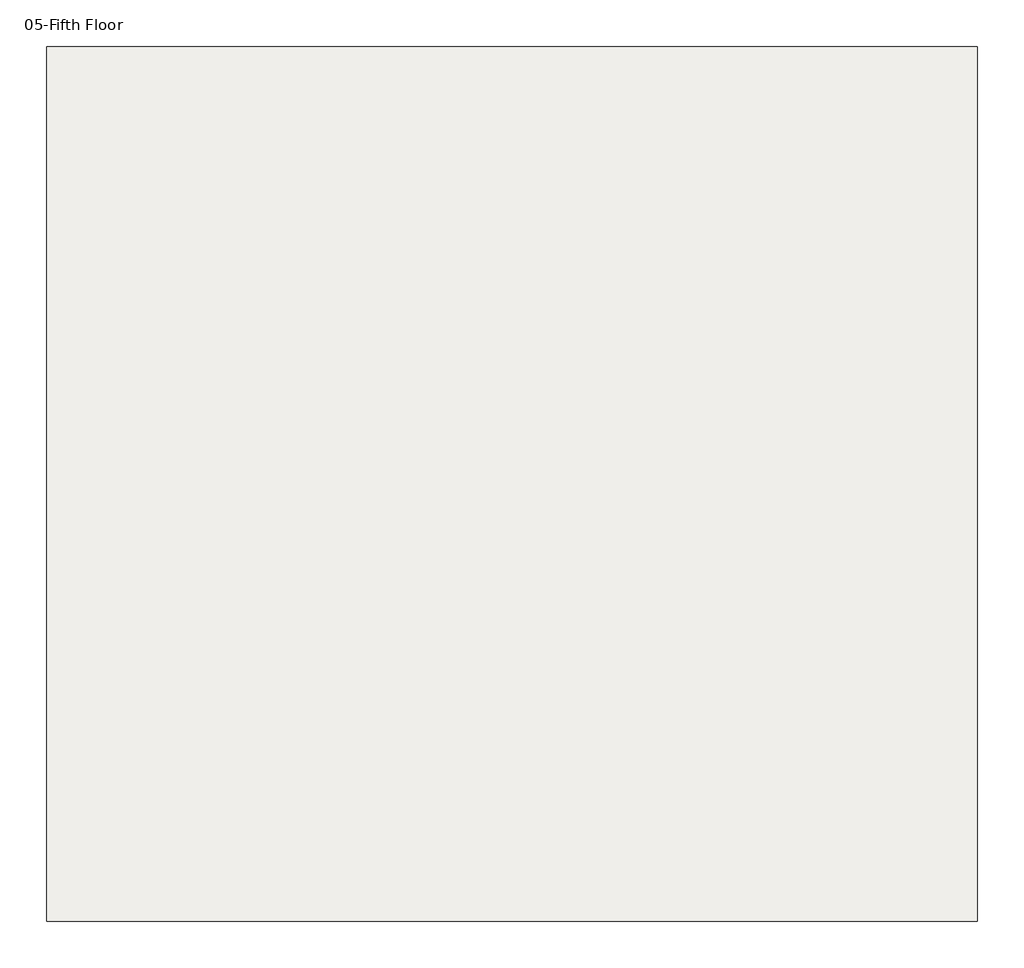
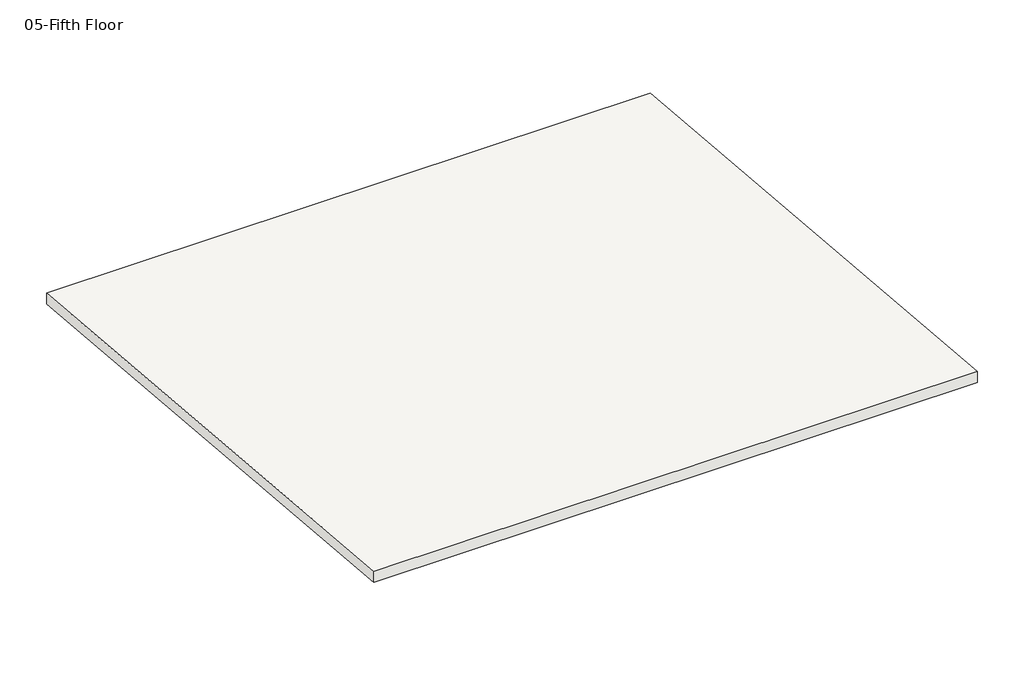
# One storey: 1 slab.
"""IFC4 building model written with IfcOpenShell, lengths in millimetres."""

import ifcopenshell
import ifcopenshell.guid

model = None  # the IFC model being written
_history = None  # IfcOwnerHistory: only IFC2X3 demands one
_inside = {}  # id of a spatial element -> (the spatial element, [elements in it])
_under = {}  # id of a project, library or spatial element -> (it, [spatial elements below it])
_declared = {}  # id of a project -> (the project, [libraries it declares])
_typed = {}  # id of a type object -> (the type object, [elements of that type])
_made_of = {}  # id of a material, layer set ... -> (it, [elements and type objects made of it])


def new_model(schema):
    """Start an empty IFC model of exactly this schema.

    Asked for "IFC4X3", IfcOpenShell would pick the latest addendum, in which some entities
    have other attributes; the version numbers below select the first issue.
    IFC2X3 requires an IfcOwnerHistory on every rooted entity: one is made here for all.
    """
    global model, _history
    if schema == "IFC4X3":
        model = ifcopenshell.file(schema_version=(4, 3, 0, 0))
    else:
        model = ifcopenshell.file(schema=schema)
    _inside.clear()
    _under.clear()
    _declared.clear()
    _typed.clear()
    _made_of.clear()
    _history = None
    if model.schema == "IFC2X3":
        org = make("IfcOrganization", Name="unknown")
        user = make(
            "IfcPersonAndOrganization",
            ThePerson=make("IfcPerson", FamilyName="unknown"),
            TheOrganization=org,
        )
        app = make(
            "IfcApplication",
            ApplicationDeveloper=org,
            Version="unknown",
            ApplicationFullName="unknown",
            ApplicationIdentifier="unknown",
        )
        _history = make(
            "IfcOwnerHistory",
            OwningUser=user,
            OwningApplication=app,
            ChangeAction="ADDED",
            CreationDate=0,
        )
    return model


def make(cls, **values):
    """One entity of the class cls with the attributes given. An attribute that is None is left unset."""
    return model.create_entity(
        cls, **{name: value for name, value in values.items() if value is not None}
    )


def rooted(cls, **values):
    """An entity with a GlobalId (a new one), such as an element, a storey or a relation."""
    return make(cls, GlobalId=ifcopenshell.guid.new(), OwnerHistory=_history, **values)


def si_unit(unit_type, name, prefix=None):
    """IfcSIUnit, for example si_unit("LENGTHUNIT", "METRE", prefix="MILLI")."""
    return make("IfcSIUnit", UnitType=unit_type, Prefix=prefix, Name=name)


def assignment(units):
    """IfcUnitAssignment: the units of a project."""
    return None if units is None else make("IfcUnitAssignment", Units=units)


def point(xyz):
    """IfcCartesianPoint."""
    return None if xyz is None else make("IfcCartesianPoint", Coordinates=xyz)


def direction(xyz):
    """IfcDirection."""
    return None if xyz is None else make("IfcDirection", DirectionRatios=xyz)


def frame(location, z_axis=None, x_axis=None):
    """IfcAxis2Placement3D, a coordinate frame: its origin and axes. An axis left out is left unset."""
    return make(
        "IfcAxis2Placement3D",
        Location=point(location),
        Axis=direction(z_axis),
        RefDirection=direction(x_axis),
    )


def origin():
    """The frame at (0, 0, 0) with its axes left unset."""
    return frame((0.0, 0.0, 0.0))


def place(relative_to, where):
    """IfcLocalPlacement: puts the frame where relative to a parent placement (None: the world)."""
    return make(
        "IfcLocalPlacement", PlacementRelTo=relative_to, RelativePlacement=where
    )


def context(
    kind, dimensions, precision=None, world=None, true_north=None, identifier=None
):
    """IfcGeometricRepresentationContext, for example the 3D "Model" context."""
    return make(
        "IfcGeometricRepresentationContext",
        ContextIdentifier=identifier,
        ContextType=kind,
        CoordinateSpaceDimension=dimensions,
        Precision=precision,
        WorldCoordinateSystem=world,
        TrueNorth=true_north,
    )


def project(units=None, contexts=None):
    """IfcProject with its units and contexts."""
    return rooted(
        "IfcProject",
        Name="project",
        RepresentationContexts=contexts,
        UnitsInContext=assignment(units),
    )


def spatial(cls, under=None, at=None, **own):
    """A site, building, storey or space (cls), placed at a placement, below another one or the project."""
    s = rooted(cls, ObjectPlacement=at, **own)
    if under is not None:
        _under.setdefault(under.id(), (under, []))[1].append(s)
    return s


def polyline(points):
    """IfcPolyline through the points."""
    return make("IfcPolyline", Points=[point(p) for p in points])


def outline(outer, holes=None, kind="AREA"):
    """IfcArbitraryClosedProfileDef: a profile drawn as a closed curve; with holes, ...WithVoids."""
    if holes is None:
        return make("IfcArbitraryClosedProfileDef", ProfileType=kind, OuterCurve=outer)
    return make(
        "IfcArbitraryProfileDefWithVoids",
        ProfileType=kind,
        OuterCurve=outer,
        InnerCurves=holes,
    )


def extrude(swept, where, along, depth):
    """IfcExtrudedAreaSolid: the profile swept, set in the frame where, extruded along a direction by depth."""
    return make(
        "IfcExtrudedAreaSolid",
        SweptArea=swept,
        Position=where,
        ExtrudedDirection=direction(along),
        Depth=depth,
    )


def shape(context_of_items, identifier, shape_type, items):
    """IfcShapeRepresentation: the items that make up one representation, for example the "Body"."""
    return make(
        "IfcShapeRepresentation",
        ContextOfItems=context_of_items,
        RepresentationIdentifier=identifier,
        RepresentationType=shape_type,
        Items=items,
    )


def made_of(thing, what):
    """Note that an element or type object is made of a material, layer set ...; save() writes the relation."""
    if what is not None:
        _made_of.setdefault(what.id(), (what, []))[1].append(thing)
    return thing


def element(
    cls,
    number,
    at=None,
    inside=None,
    cuts=None,
    type_object=None,
    material=None,
    context=None,
    identifier="Body",
    shape_type=None,
    held_by="IfcProductDefinitionShape",
    body=None,
    shapes=None,
    **own,
):
    """One element of the class cls, such as IfcWall. Its Tag is "e" and its number.

    at: its placement. inside: the storey or other place that contains it. cuts: it is an
    opening in that element (IfcRelVoidsElement). A single representation is given by context,
    identifier, shape_type and body (its items); several are given by shapes. held_by: the class
    of the entity that holds the representations. save() writes the other relations.
    """
    e = rooted(cls, Tag="e%d" % number, ObjectPlacement=at, **own)
    if body is not None:
        shapes = [shape(context, identifier, shape_type, body)]
    if shapes is not None:
        e.Representation = make(held_by, Representations=shapes)
    if inside is not None:
        _inside.setdefault(inside.id(), (inside, []))[1].append(e)
    if cuts is not None:
        rooted(
            "IfcRelVoidsElement", RelatingBuildingElement=cuts, RelatedOpeningElement=e
        )
    if type_object is not None:
        _typed.setdefault(type_object.id(), (type_object, []))[1].append(e)
    return made_of(e, material)


def aggregate(whole, parts):
    """IfcRelAggregates: a whole, such as a stair, and the parts it consists of."""
    return rooted("IfcRelAggregates", RelatingObject=whole, RelatedObjects=parts)


def save(model, path):
    """Write the relations noted so far, then the file.

    IfcRelAggregates (storeys below a building ...), IfcRelContainedInSpatialStructure (elements
    in a storey), IfcRelDefinesByType, IfcRelAssociatesMaterial and IfcRelDeclares: one each for
    every whole, place, type object, material and project.
    """
    for whole, parts in _under.values():
        aggregate(whole, parts)
    for where, things in _inside.values():
        rooted(
            "IfcRelContainedInSpatialStructure",
            RelatedElements=things,
            RelatingStructure=where,
        )
    for kind, things in _typed.values():
        rooted("IfcRelDefinesByType", RelatedObjects=things, RelatingType=kind)
    for what, things in _made_of.values():
        rooted("IfcRelAssociatesMaterial", RelatedObjects=things, RelatingMaterial=what)
    for by, libraries in _declared.values():
        rooted("IfcRelDeclares", RelatingContext=by, RelatedDefinitions=libraries)
    model.write(path)


model = new_model("IFC4")

# Units and contexts
model_context = context("Model", 3, world=origin())
ifc_project = project(units=[si_unit("LENGTHUNIT", "METRE", prefix="MILLI")], contexts=[model_context])

# Site, building, storey
site = spatial("IfcSite", under=ifc_project)
building = spatial("IfcBuilding", under=site)
storey = spatial("IfcBuildingStorey", under=building, Name="05-Fifth Floor", Elevation=16764.0)

# Slab
placement = place(None, origin())
element("IfcSlab", 1, ObjectType="6\" Concrete", at=placement, inside=storey, context=model_context, shape_type="SweptSolid", body=[
    extrude(outline(polyline([(-2832.1, 16915.8178568), (-10350.5, 17573.5926246), (-10350.5, 17726.5747679), (-2832.1, 17068.8), (-2832.1, 16915.8178568)])), frame((10401.3, 0.0, 0.0), z_axis=(1.0, 0.0, 0.0), x_axis=(0.0, 1.0, 0.0)), (0.0, 0.0, 1.0), 8001.0),
])

save(model, "model.ifc")
